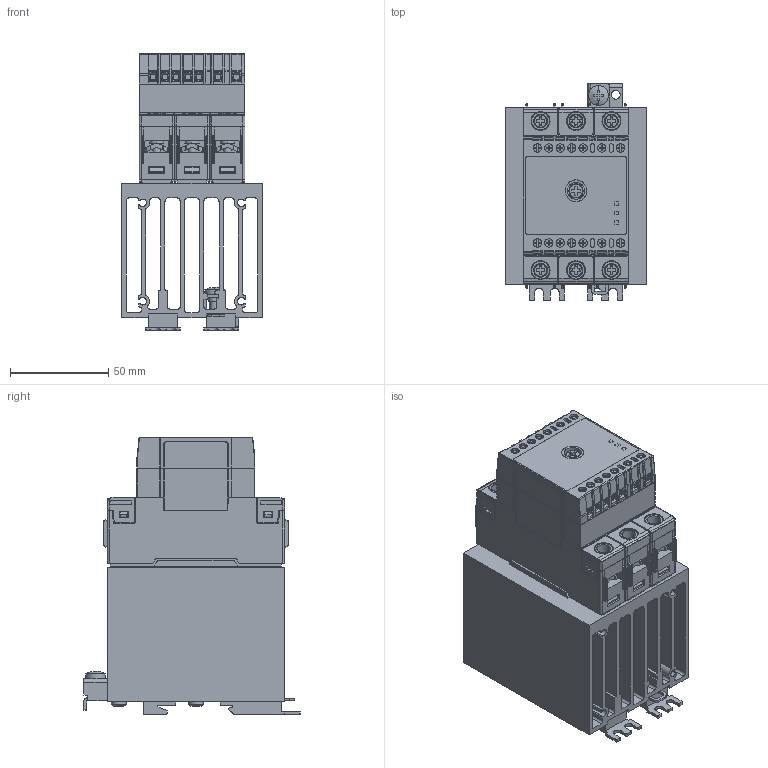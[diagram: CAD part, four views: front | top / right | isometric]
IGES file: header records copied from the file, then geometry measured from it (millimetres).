
Global section: file name: V:\RE DOCS 110324\Projects\0-Catalogue 3D-2D\RG\TEMP\CGI1030-01.igs; native system: AutoCAD-17.2s (LMS Tech) (Microsoft Windows NT Version 5.2 (x64)); preprocessor: Autodesk IGES Translator Mechanical Desktop 2009 (Feb 21 2008) from Autodesk, Inc.; date: 20140716.094847; units: millimetre
Bounding box: 71.3 x 110 x 140.7 mm (x, y, z)
Surface area: 161144.7 mm2 (no closed solid volume)
Topology: 0 solids, 0 shells, 3399 faces, 20613 edges, 20559 vertices
Faces by surface type: bspline 3399
